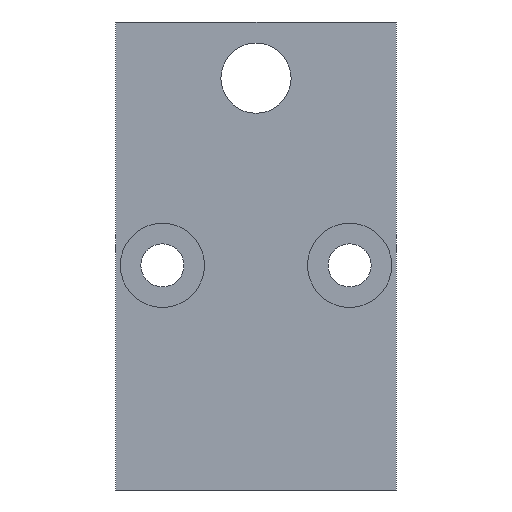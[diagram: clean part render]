
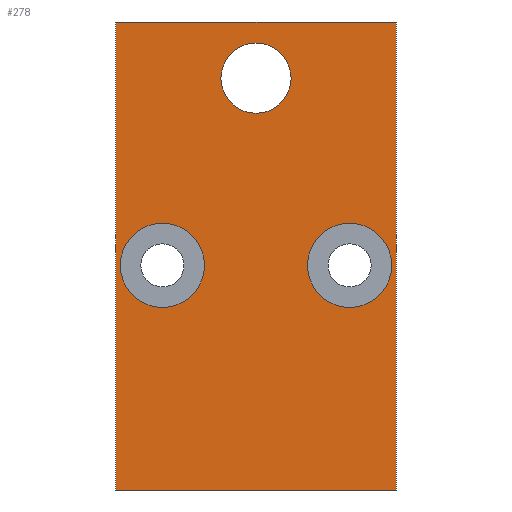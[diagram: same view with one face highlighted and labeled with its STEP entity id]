
A CAD part, front view. The second image highlights one B-rep face of the part: STEP entity #278.
In plain terms, the highlighted planar face has unit normal (0, -1, 0).
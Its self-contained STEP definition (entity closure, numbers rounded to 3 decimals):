
#1=DIRECTION('',(1.,0.,0.));
#2=VECTOR('',#1,30.);
#3=CARTESIAN_POINT('',(-15.,0.,0.));
#4=LINE('',#3,#2);
#5=DIRECTION('',(0.,0.,-1.));
#6=VECTOR('',#5,50.);
#7=CARTESIAN_POINT('',(15.,0.,0.));
#8=LINE('',#7,#6);
#9=DIRECTION('',(-1.,0.,0.));
#10=VECTOR('',#9,30.);
#11=CARTESIAN_POINT('',(15.,0.,-50.));
#12=LINE('',#11,#10);
#13=DIRECTION('',(0.,0.,1.));
#14=VECTOR('',#13,50.);
#15=CARTESIAN_POINT('',(-15.,0.,-50.));
#16=LINE('',#15,#14);
#17=CARTESIAN_POINT('',(0.,0.,-6.));
#18=DIRECTION('',(0.,1.,0.));
#19=DIRECTION('',(1.,0.,0.));
#20=AXIS2_PLACEMENT_3D('',#17,#18,#19);
#22=CARTESIAN_POINT('',(0.,0.,-6.));
#23=DIRECTION('',(0.,1.,0.));
#24=DIRECTION('',(-1.,0.,0.));
#25=AXIS2_PLACEMENT_3D('',#22,#23,#24);
#27=CARTESIAN_POINT('',(-10.,0.,-26.));
#28=DIRECTION('',(0.,1.,0.));
#29=DIRECTION('',(1.,0.,0.));
#30=AXIS2_PLACEMENT_3D('',#27,#28,#29);
#32=CARTESIAN_POINT('',(-10.,0.,-26.));
#33=DIRECTION('',(0.,1.,0.));
#34=DIRECTION('',(-1.,0.,0.));
#35=AXIS2_PLACEMENT_3D('',#32,#33,#34);
#37=CARTESIAN_POINT('',(10.,0.,-26.));
#38=DIRECTION('',(0.,1.,0.));
#39=DIRECTION('',(1.,0.,0.));
#40=AXIS2_PLACEMENT_3D('',#37,#38,#39);
#42=CARTESIAN_POINT('',(10.,0.,-26.));
#43=DIRECTION('',(0.,1.,0.));
#44=DIRECTION('',(-1.,0.,0.));
#45=AXIS2_PLACEMENT_3D('',#42,#43,#44);
#189=CARTESIAN_POINT('',(-15.,0.,0.));
#190=CARTESIAN_POINT('',(15.,0.,0.));
#191=VERTEX_POINT('',#189);
#192=VERTEX_POINT('',#190);
#193=CARTESIAN_POINT('',(15.,0.,-50.));
#194=VERTEX_POINT('',#193);
#195=CARTESIAN_POINT('',(-15.,0.,-50.));
#196=VERTEX_POINT('',#195);
#205=CARTESIAN_POINT('',(3.75,0.,-6.));
#206=CARTESIAN_POINT('',(-3.75,0.,-6.));
#207=VERTEX_POINT('',#205);
#208=VERTEX_POINT('',#206);
#229=CARTESIAN_POINT('',(-5.5,0.,-26.));
#230=CARTESIAN_POINT('',(-14.5,0.,-26.));
#231=VERTEX_POINT('',#229);
#232=VERTEX_POINT('',#230);
#233=CARTESIAN_POINT('',(14.5,0.,-26.));
#234=CARTESIAN_POINT('',(5.5,0.,-26.));
#235=VERTEX_POINT('',#233);
#236=VERTEX_POINT('',#234);
#245=CARTESIAN_POINT('',(0.,0.,0.));
#246=DIRECTION('',(0.,1.,0.));
#247=DIRECTION('',(1.,0.,0.));
#248=AXIS2_PLACEMENT_3D('',#245,#246,#247);
#249=PLANE('',#248);
#251=ORIENTED_EDGE('',*,*,#250,.T.);
#253=ORIENTED_EDGE('',*,*,#252,.T.);
#255=ORIENTED_EDGE('',*,*,#254,.T.);
#257=ORIENTED_EDGE('',*,*,#256,.T.);
#258=EDGE_LOOP('',(#251,#253,#255,#257));
#259=FACE_OUTER_BOUND('',#258,.F.);
#261=ORIENTED_EDGE('',*,*,#260,.F.);
#263=ORIENTED_EDGE('',*,*,#262,.F.);
#264=EDGE_LOOP('',(#261,#263));
#265=FACE_BOUND('',#264,.F.);
#267=ORIENTED_EDGE('',*,*,#266,.F.);
#269=ORIENTED_EDGE('',*,*,#268,.F.);
#270=EDGE_LOOP('',(#267,#269));
#271=FACE_BOUND('',#270,.F.);
#273=ORIENTED_EDGE('',*,*,#272,.F.);
#275=ORIENTED_EDGE('',*,*,#274,.F.);
#276=EDGE_LOOP('',(#273,#275));
#277=FACE_BOUND('',#276,.F.);
#278=ADVANCED_FACE('',(#259,#265,#271,#277),#249,.F.);
#21=CIRCLE('',#20,3.75);
#26=CIRCLE('',#25,3.75);
#31=CIRCLE('',#30,4.5);
#36=CIRCLE('',#35,4.5);
#41=CIRCLE('',#40,4.5);
#46=CIRCLE('',#45,4.5);
#250=EDGE_CURVE('',#191,#192,#4,.T.);
#252=EDGE_CURVE('',#192,#194,#8,.T.);
#254=EDGE_CURVE('',#194,#196,#12,.T.);
#256=EDGE_CURVE('',#196,#191,#16,.T.);
#260=EDGE_CURVE('',#207,#208,#21,.T.);
#262=EDGE_CURVE('',#208,#207,#26,.T.);
#266=EDGE_CURVE('',#231,#232,#31,.T.);
#268=EDGE_CURVE('',#232,#231,#36,.T.);
#272=EDGE_CURVE('',#235,#236,#41,.T.);
#274=EDGE_CURVE('',#236,#235,#46,.T.);
